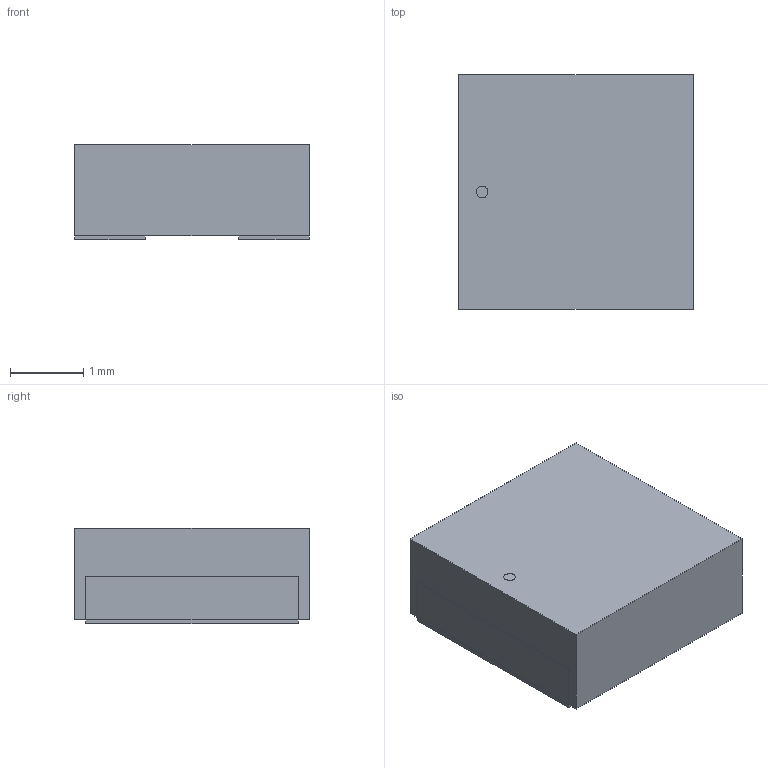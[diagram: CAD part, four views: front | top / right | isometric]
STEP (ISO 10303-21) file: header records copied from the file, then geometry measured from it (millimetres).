
FILE_DESCRIPTION(('STEP AP214'),'1');
FILE_NAME('IND_XFL3012_COC','2026-06-26T01:37:45',(''),(''),'','','');
FILE_SCHEMA(('AUTOMOTIVE_DESIGN'));
Length unit declared in the file: millimetre
Products named in the file (1): product
Bounding box: 3.2 x 3.2 x 1.3 mm (x, y, z)
Volume: 13 mm3; surface area: 55.3 mm2
Topology: 4 solids, 4 shells, 25 faces, 47 edges, 30 vertices
Faces by surface type: plane 24, cylinder 1
Full cylindrical faces by diameter (mm): 0.16 x1
Entity records: 785 total; most frequent: DIRECTION 106, ORIENTED_EDGE 100, CARTESIAN_POINT 63, EDGE_CURVE 50, LINE 48, VECTOR 48, VERTEX_POINT 34, AXIS2_PLACEMENT_3D 29
